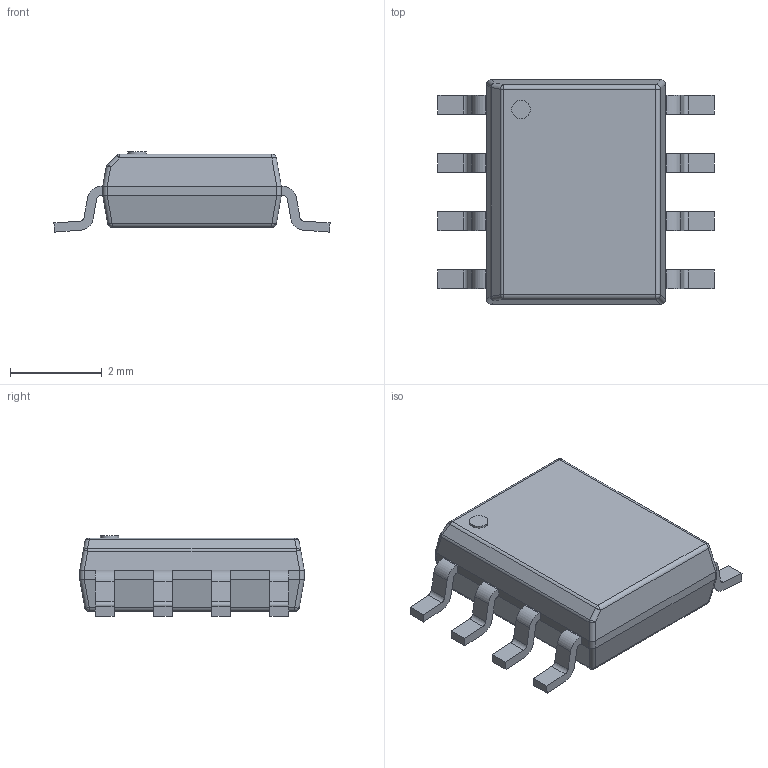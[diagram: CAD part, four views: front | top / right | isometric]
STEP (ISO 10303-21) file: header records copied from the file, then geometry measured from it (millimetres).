
FILE_DESCRIPTION(/* description */ (''),/* implementation_level */ '2;1');
FILE_NAME(/* name */ 'METUPowerLab_Regulators_BuckConverters_8-SOICPower.step',/* time_stamp */ '2026-08-28T00:52:00+03:00',/* author */ (''),/* organization */ (''),/* preprocessor_version */ 'ST-DEVELOPER v20.1',/* originating_system */ 'Autodesk Translation Framework v15.8.0.0',/* authorisation */ '');
FILE_SCHEMA (('AUTOMOTIVE_DESIGN { 1 0 10303 214 3 1 1 }'));
Length unit declared in the file: millimetre
Products named in the file (4): DDA0008E_ASM; BODY-SO; THERMALPAD-SO; LEAD-SO
Assembly tree (10 placements, depth 2):
  DDA0008E_ASM
    BODY-SO
    LEAD-SO  x8
    THERMALPAD-SO
Bounding box: 6.03 x 4.9 x 1.75 mm (x, y, z)
Volume: 29.9 mm3; surface area: 91.6 mm2
Topology: 10 solids, 10 shells, 181 faces, 431 edges, 272 vertices
Faces by surface type: plane 115, cylinder 56, sphere 10
Full cylindrical faces by diameter (mm): 0.4 x1
Entity records: 2419 total; most frequent: DIRECTION 445, CARTESIAN_POINT 380, ORIENTED_EDGE 358, EDGE_CURVE 179, AXIS2_PLACEMENT_3D 169, LINE 107, VECTOR 107, VERTEX_POINT 104
